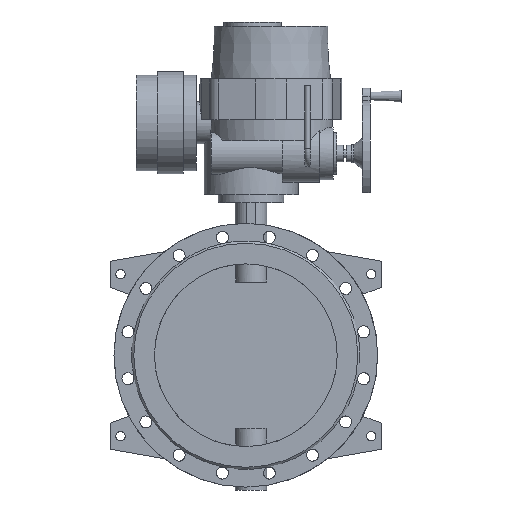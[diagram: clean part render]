
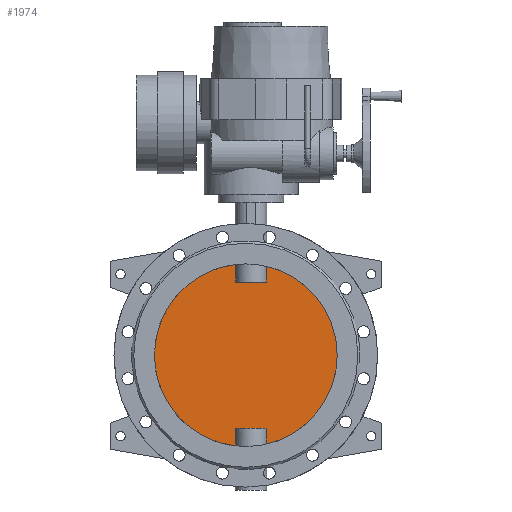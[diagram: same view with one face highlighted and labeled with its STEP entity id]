
A CAD part, front view. The second image highlights one B-rep face of the part: STEP entity #1974.
In plain terms, the highlighted planar face has unit normal (0, -1, 0).
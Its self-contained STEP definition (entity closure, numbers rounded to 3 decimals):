
#1974=ADVANCED_FACE('',(#4140),#4142,.F.);
#4140=FACE_BOUND('',#4141,.T.);
#4141=EDGE_LOOP('',(#5475,#5476,#5477,#5478,#5479,#5480,#5481,#5482));
#4142=PLANE('',#4143);
#4143=AXIS2_PLACEMENT_3D('',#4144,#4145,#4146);
#4144=CARTESIAN_POINT('',(0.,-5.,0.));
#4145=DIRECTION('',(0.,1.,0.));
#4146=DIRECTION('',(1.,0.,0.));
#5475=ORIENTED_EDGE('',*,*,#6152,.T.);
#5476=ORIENTED_EDGE('',*,*,#6159,.T.);
#5477=ORIENTED_EDGE('',*,*,#6160,.T.);
#5478=ORIENTED_EDGE('',*,*,#6161,.T.);
#5479=ORIENTED_EDGE('',*,*,#6154,.T.);
#5480=ORIENTED_EDGE('',*,*,#6162,.T.);
#5481=ORIENTED_EDGE('',*,*,#6163,.T.);
#5482=ORIENTED_EDGE('',*,*,#6164,.T.);
#6152=EDGE_CURVE('',#7147,#7148,#7149,.F.);
#6154=EDGE_CURVE('',#7152,#7150,#7153,.F.);
#6159=EDGE_CURVE('',#7148,#7161,#7162,.T.);
#6160=EDGE_CURVE('',#7161,#7163,#7164,.F.);
#6161=EDGE_CURVE('',#7163,#7152,#7165,.F.);
#6162=EDGE_CURVE('',#7150,#7166,#7167,.F.);
#6163=EDGE_CURVE('',#7166,#7168,#7169,.F.);
#6164=EDGE_CURVE('',#7168,#7147,#7170,.T.);
#7147=VERTEX_POINT('',#11026);
#7148=VERTEX_POINT('',#11027);
#7149=CIRCLE('',#11028,175.);
#7150=VERTEX_POINT('',#11032);
#7152=VERTEX_POINT('',#11135);
#7153=CIRCLE('',#11136,175.);
#7161=VERTEX_POINT('',#11258);
#7162=LINE('',#11259,#11260);
#7163=VERTEX_POINT('',#11262);
#7164=LINE('',#11263,#11264);
#7165=LINE('',#11266,#11267);
#7166=VERTEX_POINT('',#11269);
#7167=LINE('',#11270,#11271);
#7168=VERTEX_POINT('',#11273);
#7169=LINE('',#11274,#11275);
#7170=LINE('',#11277,#11278);
#11026=CARTESIAN_POINT('',(39.58,-5.,-170.465));
#11027=CARTESIAN_POINT('',(39.58,-5.,170.465));
#11028=AXIS2_PLACEMENT_3D('',#11029,#11030,#11031);
#11029=CARTESIAN_POINT('',(0.,-5.,0.));
#11030=DIRECTION('',(0.,1.,0.));
#11031=DIRECTION('',(0.226,0.,0.974));
#11032=CARTESIAN_POINT('',(-19.58,-5.,-173.901));
#11135=CARTESIAN_POINT('',(-19.58,-5.,173.901));
#11136=AXIS2_PLACEMENT_3D('',#11137,#11138,#11139);
#11137=CARTESIAN_POINT('',(0.,-5.,0.));
#11138=DIRECTION('',(0.,1.,0.));
#11139=DIRECTION('',(-0.112,0.,-0.994));
#11258=CARTESIAN_POINT('',(39.58,-5.,140.));
#11259=CARTESIAN_POINT('',(39.58,-5.,170.465));
#11260=VECTOR('',#11261,1.);
#11261=DIRECTION('',(0.,0.,-1.));
#11262=CARTESIAN_POINT('',(-19.58,-5.,140.));
#11263=CARTESIAN_POINT('',(-19.58,-5.,140.));
#11264=VECTOR('',#11265,1.);
#11265=DIRECTION('',(1.,0.,0.));
#11266=CARTESIAN_POINT('',(-19.58,-5.,173.901));
#11267=VECTOR('',#11268,1.);
#11268=DIRECTION('',(0.,0.,-1.));
#11269=CARTESIAN_POINT('',(-19.58,-5.,-140.));
#11270=CARTESIAN_POINT('',(-19.58,-5.,-140.));
#11271=VECTOR('',#11272,1.);
#11272=DIRECTION('',(0.,0.,-1.));
#11273=CARTESIAN_POINT('',(39.58,-5.,-140.));
#11274=CARTESIAN_POINT('',(39.58,-5.,-140.));
#11275=VECTOR('',#11276,1.);
#11276=DIRECTION('',(-1.,0.,0.));
#11277=CARTESIAN_POINT('',(39.58,-5.,-140.));
#11278=VECTOR('',#11279,1.);
#11279=DIRECTION('',(0.,0.,-1.));
